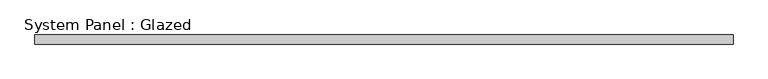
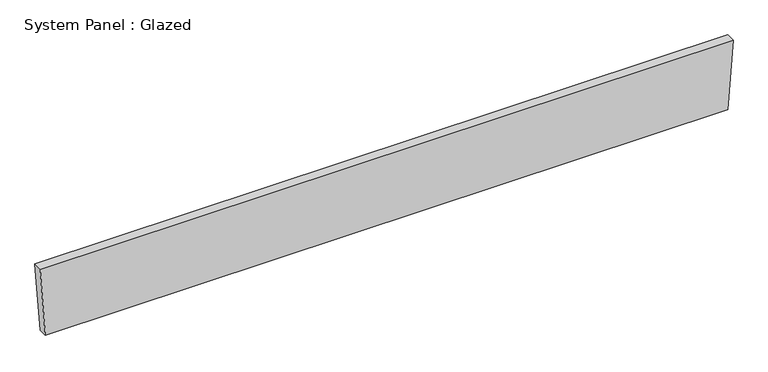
"""IFC4 building model written with IfcOpenShell, lengths in millimetres: plate geometry, System Panel : Glazed."""

import ifcopenshell
import ifcopenshell.guid

model = None  # the IFC model being written
_history = None  # IfcOwnerHistory: only IFC2X3 demands one
_inside = {}  # id of a spatial element -> (the spatial element, [elements in it])
_under = {}  # id of a project, library or spatial element -> (it, [spatial elements below it])
_declared = {}  # id of a project -> (the project, [libraries it declares])
_typed = {}  # id of a type object -> (the type object, [elements of that type])
_made_of = {}  # id of a material, layer set ... -> (it, [elements and type objects made of it])


def new_model(schema):
    """Start an empty IFC model of exactly this schema.

    Asked for "IFC4X3", IfcOpenShell would pick the latest addendum, in which some entities
    have other attributes; the version numbers below select the first issue.
    IFC2X3 requires an IfcOwnerHistory on every rooted entity: one is made here for all.
    """
    global model, _history
    if schema == "IFC4X3":
        model = ifcopenshell.file(schema_version=(4, 3, 0, 0))
    else:
        model = ifcopenshell.file(schema=schema)
    _inside.clear()
    _under.clear()
    _declared.clear()
    _typed.clear()
    _made_of.clear()
    _history = None
    if model.schema == "IFC2X3":
        org = make("IfcOrganization", Name="unknown")
        user = make(
            "IfcPersonAndOrganization",
            ThePerson=make("IfcPerson", FamilyName="unknown"),
            TheOrganization=org,
        )
        app = make(
            "IfcApplication",
            ApplicationDeveloper=org,
            Version="unknown",
            ApplicationFullName="unknown",
            ApplicationIdentifier="unknown",
        )
        _history = make(
            "IfcOwnerHistory",
            OwningUser=user,
            OwningApplication=app,
            ChangeAction="ADDED",
            CreationDate=0,
        )
    return model


def make(cls, **values):
    """One entity of the class cls with the attributes given. An attribute that is None is left unset."""
    return model.create_entity(
        cls, **{name: value for name, value in values.items() if value is not None}
    )


def rooted(cls, **values):
    """An entity with a GlobalId (a new one), such as an element, a storey or a relation."""
    return make(cls, GlobalId=ifcopenshell.guid.new(), OwnerHistory=_history, **values)


def si_unit(unit_type, name, prefix=None):
    """IfcSIUnit, for example si_unit("LENGTHUNIT", "METRE", prefix="MILLI")."""
    return make("IfcSIUnit", UnitType=unit_type, Prefix=prefix, Name=name)


def assignment(units):
    """IfcUnitAssignment: the units of a project."""
    return None if units is None else make("IfcUnitAssignment", Units=units)


def point(xyz):
    """IfcCartesianPoint."""
    return None if xyz is None else make("IfcCartesianPoint", Coordinates=xyz)


def direction(xyz):
    """IfcDirection."""
    return None if xyz is None else make("IfcDirection", DirectionRatios=xyz)


def frame(location, z_axis=None, x_axis=None):
    """IfcAxis2Placement3D, a coordinate frame: its origin and axes. An axis left out is left unset."""
    return make(
        "IfcAxis2Placement3D",
        Location=point(location),
        Axis=direction(z_axis),
        RefDirection=direction(x_axis),
    )


def origin():
    """The frame at (0, 0, 0) with its axes left unset."""
    return frame((0.0, 0.0, 0.0))


def place(relative_to, where):
    """IfcLocalPlacement: puts the frame where relative to a parent placement (None: the world)."""
    return make(
        "IfcLocalPlacement", PlacementRelTo=relative_to, RelativePlacement=where
    )


def context(
    kind, dimensions, precision=None, world=None, true_north=None, identifier=None
):
    """IfcGeometricRepresentationContext, for example the 3D "Model" context."""
    return make(
        "IfcGeometricRepresentationContext",
        ContextIdentifier=identifier,
        ContextType=kind,
        CoordinateSpaceDimension=dimensions,
        Precision=precision,
        WorldCoordinateSystem=world,
        TrueNorth=true_north,
    )


def project(units=None, contexts=None):
    """IfcProject with its units and contexts."""
    return rooted(
        "IfcProject",
        Name="project",
        RepresentationContexts=contexts,
        UnitsInContext=assignment(units),
    )


def spatial(cls, under=None, at=None, **own):
    """A site, building, storey or space (cls), placed at a placement, below another one or the project."""
    s = rooted(cls, ObjectPlacement=at, **own)
    if under is not None:
        _under.setdefault(under.id(), (under, []))[1].append(s)
    return s


def polyline(points):
    """IfcPolyline through the points."""
    return make("IfcPolyline", Points=[point(p) for p in points])


def outline(outer, holes=None, kind="AREA"):
    """IfcArbitraryClosedProfileDef: a profile drawn as a closed curve; with holes, ...WithVoids."""
    if holes is None:
        return make("IfcArbitraryClosedProfileDef", ProfileType=kind, OuterCurve=outer)
    return make(
        "IfcArbitraryProfileDefWithVoids",
        ProfileType=kind,
        OuterCurve=outer,
        InnerCurves=holes,
    )


def extrude(swept, where, along, depth):
    """IfcExtrudedAreaSolid: the profile swept, set in the frame where, extruded along a direction by depth."""
    return make(
        "IfcExtrudedAreaSolid",
        SweptArea=swept,
        Position=where,
        ExtrudedDirection=direction(along),
        Depth=depth,
    )


def shape(context_of_items, identifier, shape_type, items):
    """IfcShapeRepresentation: the items that make up one representation, for example the "Body"."""
    return make(
        "IfcShapeRepresentation",
        ContextOfItems=context_of_items,
        RepresentationIdentifier=identifier,
        RepresentationType=shape_type,
        Items=items,
    )


def source(mapping_origin, context_of_items, identifier, shape_type, items):
    """IfcRepresentationMap: a shape defined once, which mapped items show again and again."""
    return make(
        "IfcRepresentationMap",
        MappingOrigin=mapping_origin,
        MappedRepresentation=shape(context_of_items, identifier, shape_type, items),
    )


def transform(
    local_origin,
    x_axis=None,
    y_axis=None,
    z_axis=None,
    scale=None,
    scale2=None,
    scale3=None,
    uniform=True,
):
    """IfcCartesianTransformationOperator3D, or its non-uniform kind. x_axis, y_axis, z_axis: its Axis1, 2, 3."""
    if uniform:
        return make(
            "IfcCartesianTransformationOperator3D",
            Axis1=direction(x_axis),
            Axis2=direction(y_axis),
            LocalOrigin=point(local_origin),
            Scale=scale,
            Axis3=direction(z_axis),
        )
    return make(
        "IfcCartesianTransformationOperator3DnonUniform",
        Axis1=direction(x_axis),
        Axis2=direction(y_axis),
        LocalOrigin=point(local_origin),
        Scale=scale,
        Axis3=direction(z_axis),
        Scale2=scale2,
        Scale3=scale3,
    )


def mapped(mapping_source, mapping_target):
    """IfcMappedItem: shows the shape of a source again, moved by a transform."""
    return make(
        "IfcMappedItem", MappingSource=mapping_source, MappingTarget=mapping_target
    )


def made_of(thing, what):
    """Note that an element or type object is made of a material, layer set ...; save() writes the relation."""
    if what is not None:
        _made_of.setdefault(what.id(), (what, []))[1].append(thing)
    return thing


def element(
    cls,
    number,
    at=None,
    inside=None,
    cuts=None,
    type_object=None,
    material=None,
    context=None,
    identifier="Body",
    shape_type=None,
    held_by="IfcProductDefinitionShape",
    body=None,
    shapes=None,
    **own,
):
    """One element of the class cls, such as IfcWall. Its Tag is "e" and its number.

    at: its placement. inside: the storey or other place that contains it. cuts: it is an
    opening in that element (IfcRelVoidsElement). A single representation is given by context,
    identifier, shape_type and body (its items); several are given by shapes. held_by: the class
    of the entity that holds the representations. save() writes the other relations.
    """
    e = rooted(cls, Tag="e%d" % number, ObjectPlacement=at, **own)
    if body is not None:
        shapes = [shape(context, identifier, shape_type, body)]
    if shapes is not None:
        e.Representation = make(held_by, Representations=shapes)
    if inside is not None:
        _inside.setdefault(inside.id(), (inside, []))[1].append(e)
    if cuts is not None:
        rooted(
            "IfcRelVoidsElement", RelatingBuildingElement=cuts, RelatedOpeningElement=e
        )
    if type_object is not None:
        _typed.setdefault(type_object.id(), (type_object, []))[1].append(e)
    return made_of(e, material)


def aggregate(whole, parts):
    """IfcRelAggregates: a whole, such as a stair, and the parts it consists of."""
    return rooted("IfcRelAggregates", RelatingObject=whole, RelatedObjects=parts)


def save(model, path):
    """Write the relations noted so far, then the file.

    IfcRelAggregates (storeys below a building ...), IfcRelContainedInSpatialStructure (elements
    in a storey), IfcRelDefinesByType, IfcRelAssociatesMaterial and IfcRelDeclares: one each for
    every whole, place, type object, material and project.
    """
    for whole, parts in _under.values():
        aggregate(whole, parts)
    for where, things in _inside.values():
        rooted(
            "IfcRelContainedInSpatialStructure",
            RelatedElements=things,
            RelatingStructure=where,
        )
    for kind, things in _typed.values():
        rooted("IfcRelDefinesByType", RelatedObjects=things, RelatingType=kind)
    for what, things in _made_of.values():
        rooted("IfcRelAssociatesMaterial", RelatedObjects=things, RelatingMaterial=what)
    for by, libraries in _declared.values():
        rooted("IfcRelDeclares", RelatingContext=by, RelatedDefinitions=libraries)
    model.write(path)


def system_panel_glazed_c38b7309(model_context):
    return source(origin(), model_context, "Body", "SweptSolid", [
        extrude(outline(polyline([(0.0, -958.057721), (0.0, 958.057721), (201.7956974, 972.4503677), (201.7956974, -972.4503677), (0.0, -958.057721)])), frame((0.0, -44.45, 0.0), z_axis=(0.0, 1.0, 0.0), x_axis=(0.0, 0.0, 1.0)), (0.0, 0.0, 1.0), 25.4),
    ])


if __name__ == "__main__":
    model = new_model("IFC4")
    model_context = context("Model", 3, world=origin())
    ifc_project = project(units=[si_unit("LENGTHUNIT", "METRE", prefix="MILLI")], contexts=[model_context])
    site = spatial("IfcSite", under=ifc_project)
    building = spatial("IfcBuilding", under=site)
    placement = place(None, origin())
    system_panel_glazed_shape = system_panel_glazed_c38b7309(model_context)
    element("IfcPlate", 1, ObjectType="System Panel : Glazed", at=placement, inside=building, context=model_context, shape_type="MappedRepresentation", body=[
        mapped(system_panel_glazed_shape, transform((0.0, 0.0, 0.0), x_axis=(1.0, 0.0, 0.0), y_axis=(0.0, 1.0, 0.0), z_axis=(0.0, 0.0, 1.0))),
    ])
    save(model, "model.ifc")
